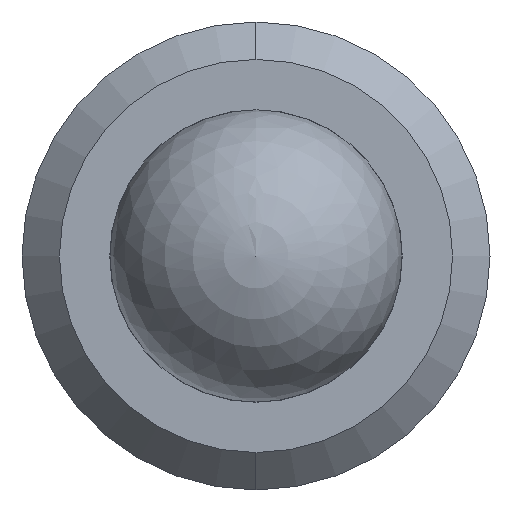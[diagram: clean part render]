
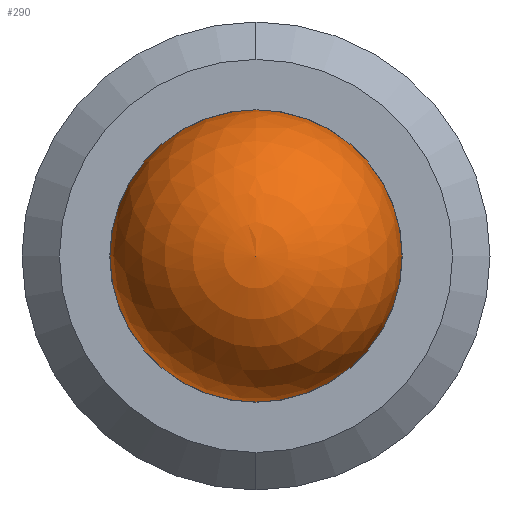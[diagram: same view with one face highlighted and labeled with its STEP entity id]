
A CAD part, left-side view. The second image highlights one B-rep face of the part: STEP entity #290.
In plain terms, the highlighted spherical face has radius 1.984 mm.
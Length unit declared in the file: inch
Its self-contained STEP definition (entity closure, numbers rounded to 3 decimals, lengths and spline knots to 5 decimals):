
#33 = DIRECTION ( 'NONE',  ( -1., 0., 0. ) ) ;
#65 = CARTESIAN_POINT ( 'NONE',  ( 0., 0., 0. ) ) ;
#131 = SPHERICAL_SURFACE ( 'NONE', #470, 0.07813 ) ;
#166 = EDGE_CURVE ( 'NONE', #279, #531, #628, .T. ) ;
#179 = ORIENTED_EDGE ( 'NONE', *, *, #166, .F. ) ;
#226 = EDGE_CURVE ( 'NONE', #279, #531, #319, .T. ) ;
#242 = ORIENTED_EDGE ( 'NONE', *, *, #226, .T. ) ;
#279 = VERTEX_POINT ( 'NONE', #357 ) ;
#290 = ADVANCED_FACE ( 'NONE', ( #503 ), #131, .T. ) ;
#319 = CIRCLE ( 'NONE', #537, 0.07813 ) ;
#357 = CARTESIAN_POINT ( 'NONE',  ( 0., 0.07813, 0. ) ) ;
#410 = DIRECTION ( 'NONE',  ( 0., 0., -1. ) ) ;
#411 = DIRECTION ( 'NONE',  ( 0., 0., 1. ) ) ;
#436 = CARTESIAN_POINT ( 'NONE',  ( 0., 0., 0. ) ) ;
#466 = DIRECTION ( 'NONE',  ( -1., 0., 0. ) ) ;
#468 = CARTESIAN_POINT ( 'NONE',  ( 0., 0., 0. ) ) ;
#470 = AXIS2_PLACEMENT_3D ( 'NONE', #65, #33, #610 ) ;
#474 = EDGE_LOOP ( 'NONE', ( #179, #242 ) ) ;
#498 = DIRECTION ( 'NONE',  ( 1., 0., 0. ) ) ;
#503 = FACE_OUTER_BOUND ( 'NONE', #474, .T. ) ;
#531 = VERTEX_POINT ( 'NONE', #617 ) ;
#537 = AXIS2_PLACEMENT_3D ( 'NONE', #468, #466, #411 ) ;
#543 = AXIS2_PLACEMENT_3D ( 'NONE', #436, #498, #410 ) ;
#610 = DIRECTION ( 'NONE',  ( 0., 0., 1. ) ) ;
#617 = CARTESIAN_POINT ( 'NONE',  ( 0., -0.07813, 0. ) ) ;
#628 = CIRCLE ( 'NONE', #543, 0.07813 ) ;
